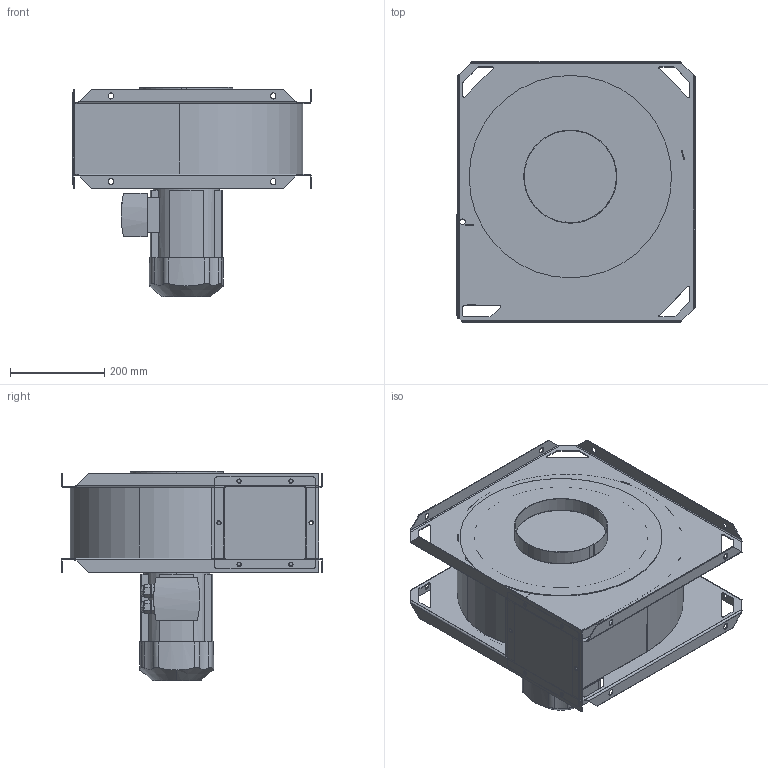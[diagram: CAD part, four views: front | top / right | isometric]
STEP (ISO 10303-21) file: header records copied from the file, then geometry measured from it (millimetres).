
FILE_DESCRIPTION((''),'2;1');
FILE_NAME('FTE_150_LG90','2022-10-13T14:50:32',('Tomas Bellgran'),(''),'CREO PARAMETRIC BY PTC INC, 2018260','CREO PARAMETRIC BY PTC INC, 2018260','');
FILE_SCHEMA(('AUTOMOTIVE_DESIGN { 1 0 10303 214 1 1 1 1 }'));
Length unit declared in the file: millimetre
Products named in the file (12): 109604; 109613; 109614; 109629; 116455; 108025; 108028; 108022; 4A3_80M_B5_L; 120069; 116968; FTE_150_LG90
Assembly tree (11 placements, depth 3):
  FTE_150_LG90
    109629
      109604
      109613
      109614
    116455
    108022
      108025
      108028
    120069
      4A3_80M_B5_L
    116968
Bounding box: 505.8 x 555 x 444 mm (x, y, z)
Volume: 7332190.1 mm3; surface area: 2313909.3 mm2
Topology: 9 solids, 9 shells, 519 faces, 1328 edges, 840 vertices
Faces by surface type: plane 305, cylinder 184, bspline 24, cone 6
Entity records: 25385 total; most frequent: CARTESIAN_POINT 4287, ORIENTED_EDGE 2656, DIRECTION 2652, PRESENTATION_STYLE_ASSIGNMENT 1856, STYLED_ITEM 1856, CURVE_STYLE 1328, EDGE_CURVE 1328, VECTOR 900
